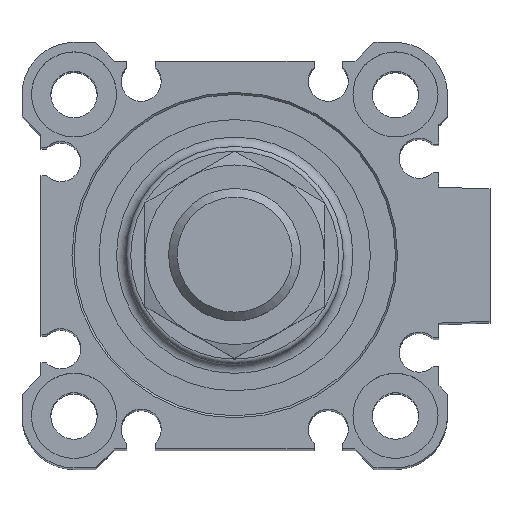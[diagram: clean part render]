
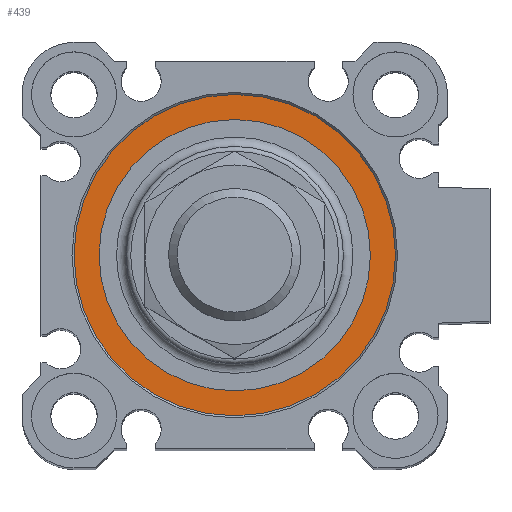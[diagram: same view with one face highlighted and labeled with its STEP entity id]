
A CAD part, top view. The second image highlights one B-rep face of the part: STEP entity #439.
In plain terms, the highlighted planar face has unit normal (0, 0, 1).
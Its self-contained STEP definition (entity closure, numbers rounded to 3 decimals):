
#439 = ADVANCED_FACE( '', ( #953, #954 ), #955, .T. );
#953 = FACE_BOUND( '', #1515, .T. );
#954 = FACE_OUTER_BOUND( '', #1516, .T. );
#955 = PLANE( '', #1517 );
#1515 = EDGE_LOOP( '', ( #2572 ) );
#1516 = EDGE_LOOP( '', ( #2573 ) );
#1517 = AXIS2_PLACEMENT_3D( '', #2574, #2575, #2576 );
#2572 = ORIENTED_EDGE( '', *, *, #3279, .T. );
#2573 = ORIENTED_EDGE( '', *, *, #3311, .F. );
#2574 = CARTESIAN_POINT( '', ( 0., 17., -1.6 ) );
#2575 = DIRECTION( '', ( 0., 0., 1. ) );
#2576 = DIRECTION( '', ( 1., 0., 0. ) );
#3279 = EDGE_CURVE( '', #3950, #3950, #3951, .T. );
#3311 = EDGE_CURVE( '', #3991, #3991, #3992, .T. );
#3950 = VERTEX_POINT( '', #4923 );
#3951 = CIRCLE( '', #4924, 14.35 );
#3991 = VERTEX_POINT( '', #4973 );
#3992 = CIRCLE( '', #4974, 17. );
#4923 = CARTESIAN_POINT( '', ( -14.35, 0., -1.6 ) );
#4924 = AXIS2_PLACEMENT_3D( '', #5520, #5521, #5522 );
#4973 = CARTESIAN_POINT( '', ( -17., 0., -1.6 ) );
#4974 = AXIS2_PLACEMENT_3D( '', #5554, #5555, #5556 );
#5520 = CARTESIAN_POINT( '', ( 0., 0., -1.6 ) );
#5521 = DIRECTION( '', ( 0., 0., -1. ) );
#5522 = DIRECTION( '', ( -1., 0., 0. ) );
#5554 = CARTESIAN_POINT( '', ( 0., 0., -1.6 ) );
#5555 = DIRECTION( '', ( 0., 0., -1. ) );
#5556 = DIRECTION( '', ( -1., 0., 0. ) );
